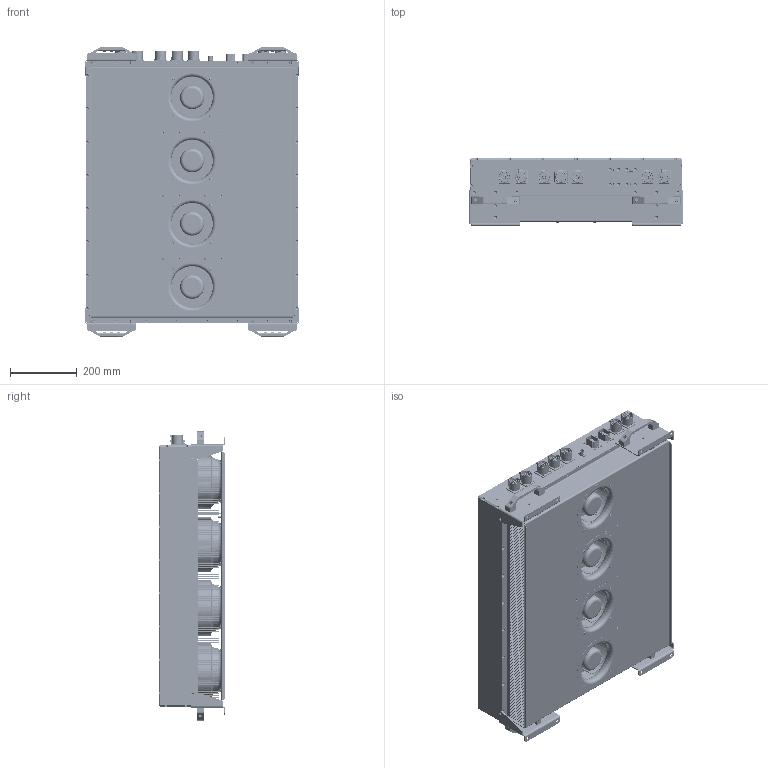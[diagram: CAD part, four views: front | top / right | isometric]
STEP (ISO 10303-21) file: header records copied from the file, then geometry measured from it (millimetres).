
FILE_DESCRIPTION (( 'STEP AP214' ), '1' );
FILE_NAME ('ﾐﾃﾋﾑ.435431.001 ﾑﾀﾝ-ﾒﾈ200ﾂ-10-ﾀ1.STEP', '2026-08-17T14:13:26', ( '' ), ( '' ), 'SwSTEP 2.0', 'SolidWorks 2022', '' );
FILE_SCHEMA (( 'AUTOMOTIVE_DESIGN' ));
Length unit declared in the file: millimetre
Products named in the file (1): РГЛС.435431.001 САЭ-ТИ200В-10-А1
Bounding box: 646 x 201 x 869 mm (x, y, z)
Volume: 62251877.3 mm3; surface area: 11261775.2 mm2
Topology: 60 solids, 327 shells, 12730 faces, 32221 edges, 20364 vertices
Faces by surface type: plane 6515, cylinder 3580, cone 1480, bspline 723, torus 418, sphere 14
Entity records: 590448 total; most frequent: CARTESIAN_POINT 163967, ORIENTED_EDGE 63588, DIRECTION 54084, EDGE_CURVE 31794, VERTEX_POINT 20364, AXIS2_PLACEMENT_3D 19334, LINE 15416, VECTOR 15416
